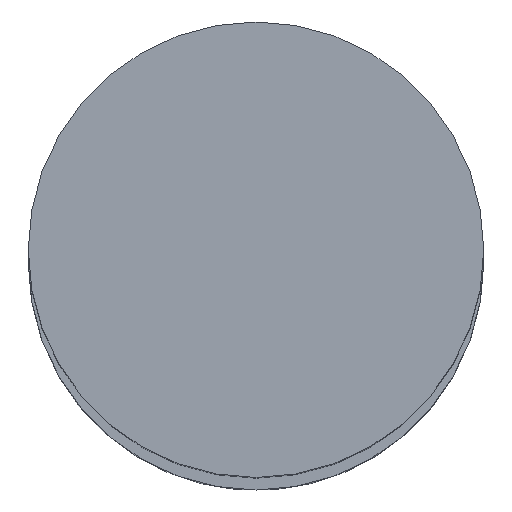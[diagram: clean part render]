
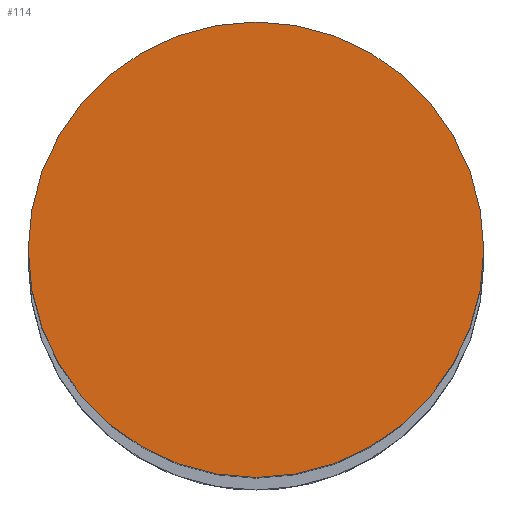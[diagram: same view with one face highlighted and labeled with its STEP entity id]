
A CAD part, top view. The second image highlights one B-rep face of the part: STEP entity #114.
In plain terms, the highlighted planar face has unit normal (0, 0, 1).
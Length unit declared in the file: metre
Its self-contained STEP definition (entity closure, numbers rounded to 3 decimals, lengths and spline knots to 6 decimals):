
#114=ADVANCED_FACE('0:129',(#221),#222,.T.);
#221=FACE_OUTER_BOUND('',#321,.T.);
#222=PLANE('',#322);
#321=EDGE_LOOP('',(#526,#527));
#322=AXIS2_PLACEMENT_3D('',#528,#529,#530);
#526=ORIENTED_EDGE('',*,*,#596,.F.);
#527=ORIENTED_EDGE('',*,*,#577,.F.);
#528=CARTESIAN_POINT('',(0.,0.,0.18));
#529=DIRECTION('',(0.0,0.0,1.0));
#530=DIRECTION('',(1.0,0.0,0.0));
#577=EDGE_CURVE('',#683,#685,#686,.F.);
#596=EDGE_CURVE('',#685,#683,#718,.F.);
#683=VERTEX_POINT('',#826);
#685=VERTEX_POINT('',#829);
#686=CIRCLE('',#830,0.008);
#718=CIRCLE('',#867,0.008);
#826=CARTESIAN_POINT('',(0.00789,0.000133,0.18));
#829=CARTESIAN_POINT('',(-0.00811,0.000133,0.18));
#830=AXIS2_PLACEMENT_3D('',#981,#982,#983);
#867=AXIS2_PLACEMENT_3D('',#1019,#1020,#1021);
#981=CARTESIAN_POINT('',(-0.00011,0.000133,0.18));
#982=DIRECTION('',(0.0,0.0,1.0));
#983=DIRECTION('',(1.0,0.0,0.0));
#1019=CARTESIAN_POINT('',(-0.00011,0.000133,0.18));
#1020=DIRECTION('',(0.0,0.0,1.0));
#1021=DIRECTION('',(1.0,0.0,0.0));
